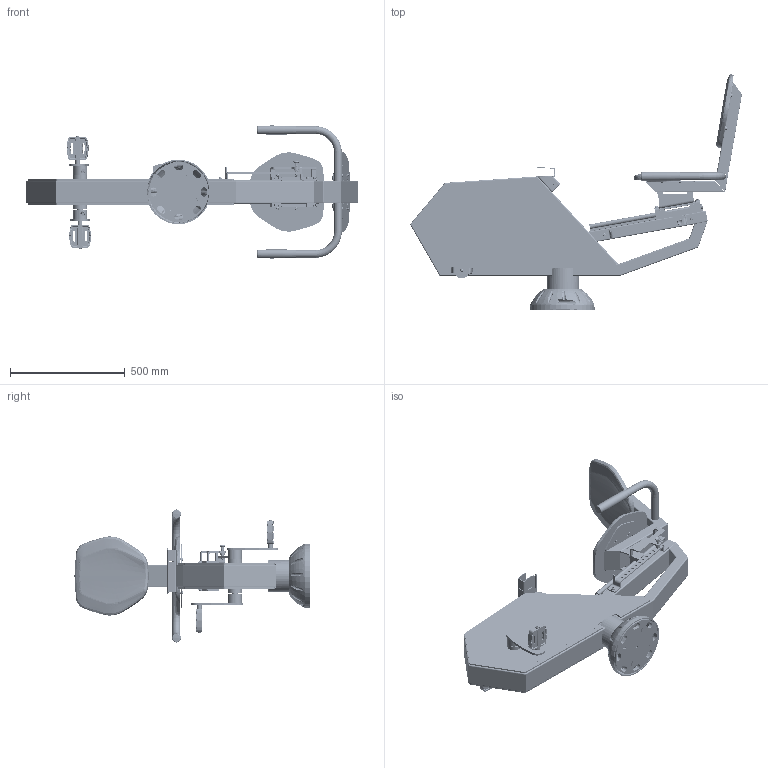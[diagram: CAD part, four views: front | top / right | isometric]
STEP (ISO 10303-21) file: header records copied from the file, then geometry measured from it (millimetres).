
FILE_DESCRIPTION (( 'STEP AP203' ), '1' );
FILE_NAME ('CT0111CSR - VELO SEMI COUCHE CHARGEUR SMARTPHONE RAPIDE V1.1.STEP', '2020-03-27T12:57:38', ( '' ), ( '' ), 'SwSTEP 2.0', 'SolidWorks 2019', '' );
FILE_SCHEMA (( 'CONFIG_CONTROL_DESIGN' ));
Length unit declared in the file: millimetre
Products named in the file (96): PU-TOLGOPL - Gousset platine V2.0; TRESI-RCT0111 - Tube inférieur vélo couché R V1.1; SME2606 - Chargeur smarphone 3.0; TOLMAN-CT0109 - Manivelle vélo V1.1_V‚lo elliptique; SB0163 - Vis CHC M6x16 inox A2; SB0177 - Vis CHC M8x25 inox A2 -; CT0111CSR - VELO SEMI COUCHE CHARGEUR SMARTPHONE RAPIDE V1.1; SR0447 - Rondelle Grower M12; SRR0825 - Roulement 4204 47-20-18 à double rangées; SPI2903 - Attache rapide pour Chaine pas 12.7 ; SA1419A - Axe pédale V1.1; JA-VR - Joint adhésif vélo semi couché R ep3 L=2247 V1.1; TOLLIPA-RCT0111 - Liaison patin vélo semi couché V1.1; SB0185 - Vis CHC M6X30 A2; SME3201 - Doigt d''indexage Norelem 03089-123081201; TOLCARD-RCT0111 -  Tôle carénage vélo semi couché R droit V1.1; TOLMVR-5 - Tôle 5 mécanisme vélo R V1.2; SB0124 - Vis Torx teton central M8x30_M8x20; RCT0109-M - MECANISME VELO R V1.4 _Mecanisme Velo CSR; SB0162 - Vis CHC M6x12 inox A2; SPI2901 - Pignon Z12 廧.6 V1.0; SA1457 - Axe secondaire v幨o R V1.2; SR0416 - Rondelle plate petite M10 A2 ext 22mm; SC0304 - CACHE PLATINE ASS V4.0; RCT0111-CD - CARENAGE DROIT VELO SEMI COUCHE R V1.1; SPI2902 - Chaine pas 12,7 Z62; SSD0720 - SIEGE DOSSIER ASS V1.2_‚p.5 - Fixation siŠge; TRESSC-RCT0111 - Tube supérieur carénage vélo couché R V1.1; SCH1807 - Chapeau 96x46 V1.0; SJO3100 - Joint à lèvres 25x45x10; SBA1625 - Bague 廧aul嶪 d.12 D.25 L19 V1.1; TOLMVR-1 - Tôle 1 mécanisme vélo R V1.2; MANPED-MU2010 - MANIVELLE PEDALIER VELO V1.0; PU-TOLPLAT - Platine base V1.0; SB0170 - Vis CHC M6x22 inox A2; SSD0719 - Demi plaque dossier béton pour tube 100x50 V1.1; SPI2902 - Chaine pas 12,7 Z68; SR0410 - Rondelle Grower M10 A2; SPI2900 - Couronne Z52 廧.6 V1.0; SSD0720 - Dossier-siège V1.2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
Assembly tree (248 placements, depth 4):
  CT0111CSR - VELO SEMI COUCHE CHARGEUR SMARTPHONE RAPIDE V1.1
    CT0111CSR-B - BATI VELO COUCHE CHARGEUR SMARTPHONE RAPIDE V1.1
      PU-TROCB160 - Colonne base D.139,7x3 Ht160 V1.0
      PLATINE BASE ASS V2.0
        PU-TOLPLAT - Platine base V1.0
        PU-TOLGOPL - Gousset platine V2.0  x4
      PU-OPEDL.A - Opercule base  D.134 H=18 V1.1  x2
      TRESI-RCT0111 - Tube inférieur vélo couché R V1.1
      TRESSC-RCT0111 - Tube supérieur carénage vélo couché R V1.1
      PU-TREST.A - Support t幨廧hone V2.0
      SF1114 - Ecrou à sertir hexagonal M8_‚p.3  x5
      TRECHSUP-RCT0111 - Tube châssis supérieur vélo couché R V1.1
      SCH1807 - Chapeau 96x46 V1.0
      TREBOTCT0109CSR - Tube boitier v幨o CSR V1.0
      SF1125 - Ecrou à sertir M6_M8  x2
    RCT0109-M - MECANISME VELO R V1.4 _Mecanisme Velo CSR
      RCT0109-BM1 - BATI 1 MECANISME VELO R V1.1
        TOLMVR-1 - Tôle 1 mécanisme vélo R V1.2
      RCT0109-BM3 - BATI 3 MECANISME VELO R V1.2
        TOLMVR-5 - Tôle 5 mécanisme vélo R V1.2
        TOLMVR-4 - Tôle 4 mécanisme vélo R V1.2
      SPI2900 - Couronne Z52 廧.6 V1.0  x2
      SPI2901 - Pignon Z12 廧.6 V1.0  x2
      SRR0804 - Roulement 6205 52-25-15  x2
      SA1456 - Axe primaire v幨o R V1.1
      SB0159 - Vis FHC M6x12 inox A2  x11
      SPI2902 - Chaine pas 12,7 Z62
      SA1457 - Axe secondaire v幨o R V1.2
      SRR0825 - Roulement 4204 47-20-18 à double rangées
      SR0416 - Rondelle plate petite M10 A2 ext 22mm
      SF1101 - Ecrou frein M10 A2
      SPI2902 - Chaine pas 12,7 Z68
      SB0170 - Vis CHC M6x22 inox A2  x4
      SBA1621 - Bague 4204 L20 V1.0
      SB0160 - Vis FHC M6x16 inox A2  x4
      SR0442 - Circlips ext. d.20x1,2
      SBA1623 - Bague 2200 L17 V1.2
      SA1458 - Axe alternateur v幨o R V1.4
      SBA1624 - Bague d.12 D.18 L5,5 V1.2
      SBA1625 - Bague 廧aul嶪 d.12 D.25 L19 V1.1
      SR0404 - Rondelle plate Moyenne M8 A2  x5
      SB0177 - Vis CHC M8x25 inox A2 -  x5
      SR0422 - Rondelle plate étroite M6 A2_D‚fault  x7
      SB0163 - Vis CHC M6x16 inox A2  x5
      SB0185 - Vis CHC M6X30 A2  x2
      MU2010CS-BM2 - BATI MECANISME 2  TRIO VELOS + TABLE CHARGEURS SMARTPHONE V1.2
        TOLMTVCS-2 - Tôle 2 mécanisme trio vélos CS V1.0
        TOLMVR-3 - Tôle 3 mécanisme vélo R V1.4
    SME2606 - Chargeur smarphone 3.0
    SME2606 - Bague pour chargeur smarphone 3.0
    SRP0207.A - Pédale V1.3  x2
    MANPED-MU2010 - MANIVELLE PEDALIER VELO V1.0
      TOLMAN-CT0109 - Manivelle vélo V1.1_V‚lo elliptique
      SBA1603.A - Bague manivelle support goupille V2.0
      SA1440 - Goupille avec plat D.15 V1.0
      SA1419A - Axe pédale V1.1
      SR0404 - Rondelle plate Moyenne M8 A2
      SB0112 - Vis Torx teton central M8x20_M8x20
      SR0426 - Rondelle plate petite M10 A2 ext 18mm
      SR0410 - Rondelle Grower M10 A2
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Bounding box: 1446.52 x 1024.58 x 579.49 mm (x, y, z)
Volume: 15130882.9 mm3; surface area: 6224417.3 mm2
Topology: 393 solids, 394 shells, 13382 faces, 33017 edges, 21181 vertices
Faces by surface type: cylinder 6648, plane 4252, torus 1066, cone 986, bspline 374, sphere 56
Entity records: 376887 total; most frequent: CARTESIAN_POINT 142626, DIRECTION 49851, ORIENTED_EDGE 44118, EDGE_CURVE 22059, AXIS2_PLACEMENT_3D 20227, VERTEX_POINT 14186, CIRCLE 11326, EDGE_LOOP 10025
